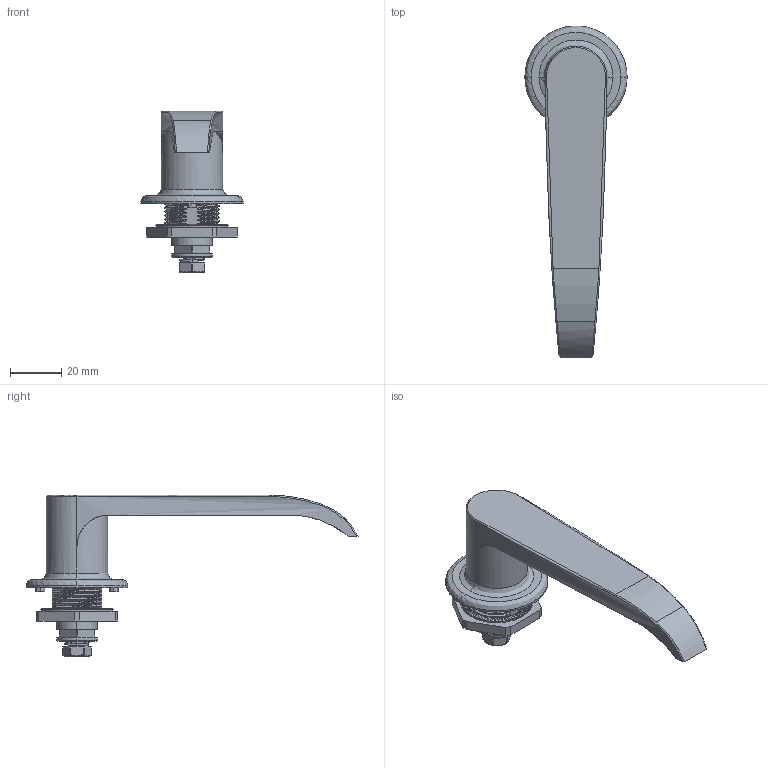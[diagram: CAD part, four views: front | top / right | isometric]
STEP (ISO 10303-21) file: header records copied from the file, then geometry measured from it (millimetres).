
FILE_DESCRIPTION(/* description */ (''),/* implementation_level */ '2;1');
FILE_NAME(/* name */ 'B-2033 圓座T型把手',/* time_stamp */ '2023-05-09T12:16:34+08:00',/* author */ (''),/* organization */ (''),/* preprocessor_version */ 'ST-DEVELOPER v16.5',/* originating_system */ 'Rhino 7.28',/* authorisation */ '');
FILE_SCHEMA (('CONFIG_CONTROL_DESIGN'));
Length unit declared in the file: millimetre
Products named in the file (1): Document
Bounding box: 40 x 129.96 x 63.35 mm (x, y, z)
Volume: 33339.4 mm3; surface area: 19556.9 mm2
Topology: 3 solids, 3 shells, 787 faces, 2033 edges, 1336 vertices
Faces by surface type: plane 463, bspline 193, cylinder 131
Entity records: 53026 total; most frequent: CARTESIAN_POINT 39433, ORIENTED_EDGE 4062, EDGE_CURVE 2031, B_SPLINE_CURVE_WITH_KNOTS 1669, VERTEX_POINT 1336, EDGE_LOOP 879, ADVANCED_FACE 787, FACE_OUTER_BOUND 787
